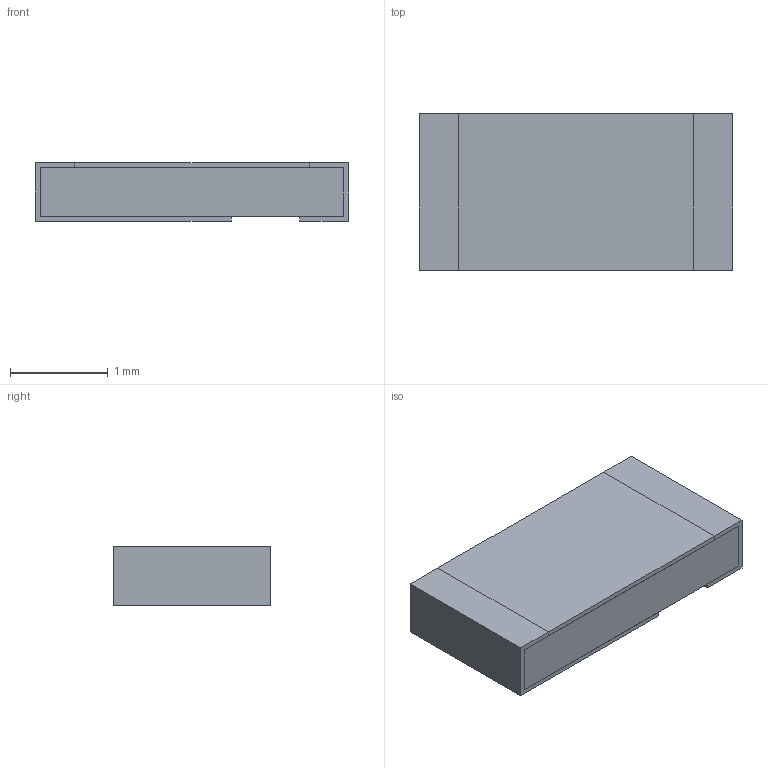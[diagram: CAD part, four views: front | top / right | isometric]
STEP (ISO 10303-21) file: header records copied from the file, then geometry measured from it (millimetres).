
FILE_DESCRIPTION(('STEP AP203'), '1');
FILE_NAME('P1-85-3-1', '', ('UNSPECIFIED'), ('UNSPECIFIED'), 'ASCON STEP Converter 1.6', 'ASCON Math Kernel', '');
FILE_SCHEMA(('CONFIG_CONTROL_DESIGN'));
Length unit declared in the file: millimetre
Bounding box: 3.2 x 1.6 x 0.6 mm (x, y, z)
Volume: 3 mm3; surface area: 38.3 mm2
Topology: 4 solids, 5 shells, 51 faces, 123 edges, 82 vertices
Faces by surface type: plane 47, cylinder 4
Entity records: 1937 total; most frequent: CARTESIAN_POINT 257, ORIENTED_EDGE 246, DIRECTION 235, EDGE_CURVE 123, LINE 115, VECTOR 115, VERTEX_POINT 82, AXIS2_PLACEMENT_3D 60
